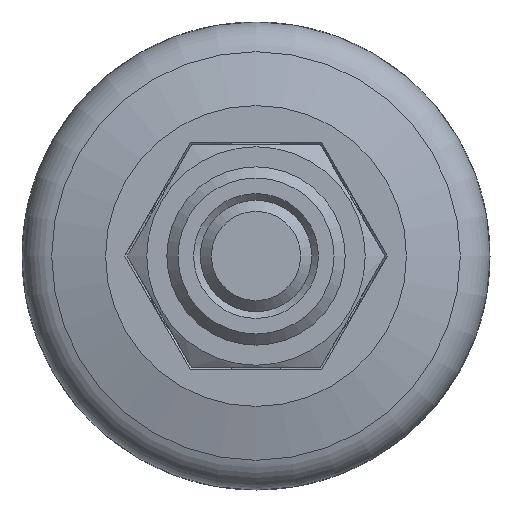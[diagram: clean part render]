
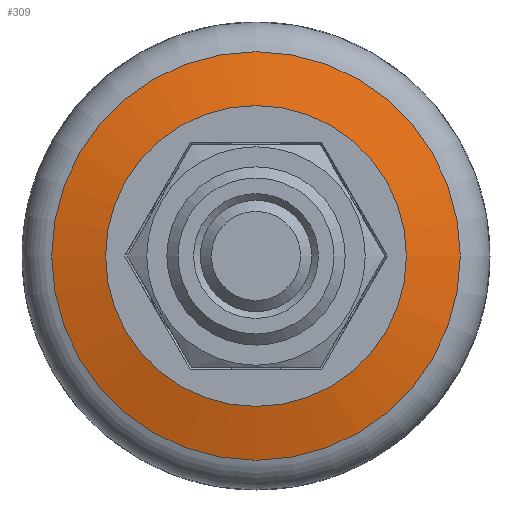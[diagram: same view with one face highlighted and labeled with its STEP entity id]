
A CAD part, front view. The second image highlights one B-rep face of the part: STEP entity #309.
In plain terms, the highlighted conical face has half-angle 75 degrees and reference radius 9.166 mm.
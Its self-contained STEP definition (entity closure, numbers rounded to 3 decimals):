
#309 = ADVANCED_FACE( '', ( #691, #692 ), #693, .T. );
#691 = FACE_BOUND( '', #1192, .T. );
#692 = FACE_OUTER_BOUND( '', #1193, .T. );
#693 = CONICAL_SURFACE( '', #1194, 9.166, 1.309 );
#1192 = EDGE_LOOP( '', ( #2713 ) );
#1193 = EDGE_LOOP( '', ( #2714 ) );
#1194 = AXIS2_PLACEMENT_3D( '', #2715, #2716, #2717 );
#2713 = ORIENTED_EDGE( '', *, *, #3842, .F. );
#2714 = ORIENTED_EDGE( '', *, *, #3841, .T. );
#2715 = CARTESIAN_POINT( '', ( 0., 15.214, 0. ) );
#2716 = DIRECTION( '', ( 0., 1., 0. ) );
#2717 = DIRECTION( '', ( 0., 0., 1. ) );
#3841 = EDGE_CURVE( '', #4865, #4865, #4866, .T. );
#3842 = EDGE_CURVE( '', #4867, #4867, #4868, .T. );
#4865 = VERTEX_POINT( '', #6713 );
#4866 = CIRCLE( '', #6714, 9.166 );
#4867 = VERTEX_POINT( '', #6715 );
#4868 = CIRCLE( '', #6716, 6.75 );
#6713 = CARTESIAN_POINT( '', ( 0., 15.214, -9.166 ) );
#6714 = AXIS2_PLACEMENT_3D( '', #7503, #7504, #7505 );
#6715 = CARTESIAN_POINT( '', ( 0., 14.567, -6.75 ) );
#6716 = AXIS2_PLACEMENT_3D( '', #7506, #7507, #7508 );
#7503 = CARTESIAN_POINT( '', ( 0., 15.214, 0. ) );
#7504 = DIRECTION( '', ( 0., -1., 0. ) );
#7505 = DIRECTION( '', ( 0., 0., -1. ) );
#7506 = CARTESIAN_POINT( '', ( 0., 14.567, 0. ) );
#7507 = DIRECTION( '', ( 0., -1., 0. ) );
#7508 = DIRECTION( '', ( 0., 0., -1. ) );
